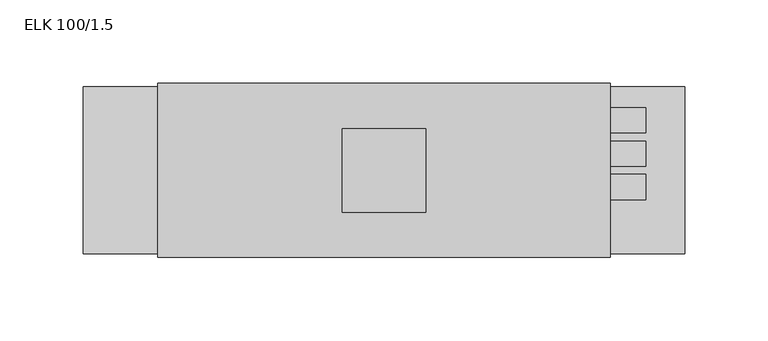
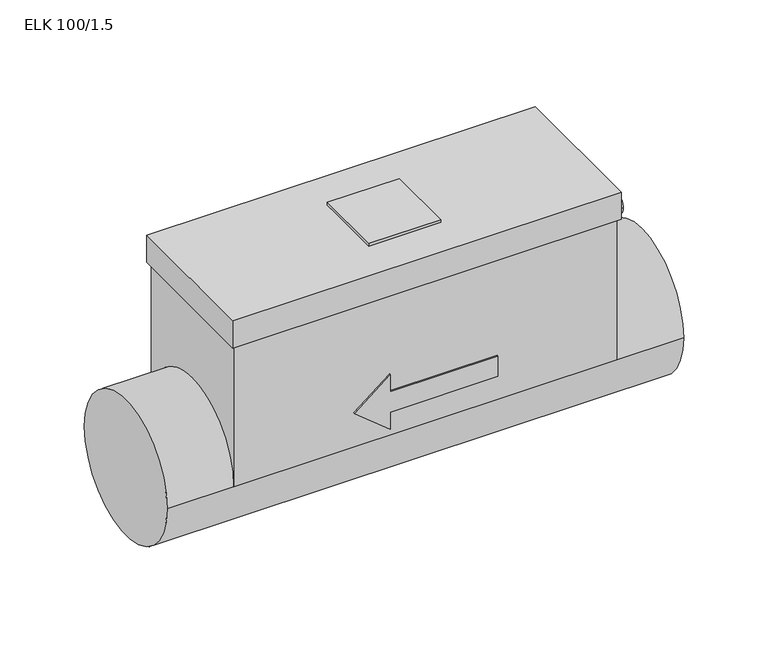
"""IFC4 building model written with IfcOpenShell, lengths in millimetres: proxy geometry, KORF_Нагреватель_Электрический_Круглый_ELK : ELK 100/1.5."""

from ifc_helpers import new_model, si_unit, point, frame, frame_2d, origin, place, context, project, spatial, polyline, circle_curve, trimmed, segment, composite_curve, outline, extrude, source, transform, mapped, element, save
from ifc_brep_helpers import plane_surface, cylinder_surface, advanced_brep


def elk_100_1_5_5251a224(model_context):
    return source(origin(), model_context, "Body", "SolidModel", [
        extrude(outline(polyline([(205.0, 25.0), (205.0, -25.0), (155.0, -25.0), (155.0, 25.0), (205.0, 25.0)])), frame((0.0, 0.0, 124.0), z_axis=(0.0, 0.0, 1.0), x_axis=(1.0, 0.0, 0.0)), (0.0, 0.0, 1.0), 2.0),
        extrude(outline(composite_curve([segment(trimmed(circle_curve(frame_2d((-10.0, 84.0)), 7.5), [point((-17.5, 84.0))], [point((-2.5, 84.0))], False, "CARTESIAN"), True, "CONTINUOUS"), segment(trimmed(circle_curve(frame_2d((-10.0, 84.0)), 7.5), [point((-2.5, 84.0))], [point((-17.5, 84.0))], False, "CARTESIAN"), True, "CONTINUOUS")], self_intersect=False)), frame((313.5, 0.0, 0.0), z_axis=(1.0, 0.0, 0.0), x_axis=(0.0, 1.0, 0.0)), (0.0, 0.0, 1.0), 23.25),
        extrude(outline(composite_curve([segment(trimmed(circle_curve(frame_2d((10.0, 84.0)), 7.5), [point((2.5, 84.0))], [point((17.5, 84.0))], False, "CARTESIAN"), True, "CONTINUOUS"), segment(trimmed(circle_curve(frame_2d((10.0, 84.0)), 7.5), [point((17.5, 84.0))], [point((2.5, 84.0))], False, "CARTESIAN"), True, "CONTINUOUS")], self_intersect=False)), frame((313.5, 0.0, 0.0), z_axis=(1.0, 0.0, 0.0), x_axis=(0.0, 1.0, 0.0)), (0.0, 0.0, 1.0), 23.25),
        extrude(outline(composite_curve([segment(trimmed(circle_curve(frame_2d((30.0, 84.0)), 7.5), [point((22.5, 84.0))], [point((37.5, 84.0))], False, "CARTESIAN"), True, "CONTINUOUS"), segment(trimmed(circle_curve(frame_2d((30.0, 84.0)), 7.5), [point((37.5, 84.0))], [point((22.5, 84.0))], False, "CARTESIAN"), True, "CONTINUOUS")], self_intersect=False)), frame((313.5, 0.0, 0.0), z_axis=(1.0, 0.0, 0.0), x_axis=(0.0, 1.0, 0.0)), (0.0, 0.0, 1.0), 23.25),
        advanced_brep(
        [(315.5, 52.0, 104.0), (315.5, -52.0, 104.0), (44.5, -52.0, 104.0), (44.5, 52.0, 104.0), (313.5, 50.0, 104.0), (46.5, 50.0, 104.0), (46.5, -50.0, 104.0), (313.5, -50.0, 104.0), (315.5, 52.0, 124.0), (44.5, 52.0, 124.0), (44.5, -52.0, 124.0), (315.5, -52.0, 124.0), (313.5, 50.0, 0.0), (46.5, 50.0, 0.0), (155.0, 50.0, 45.0), (130.0, 50.0, 25.0), (155.0, 50.0, 5.0), (155.0, 50.0, 17.5), (230.0, 50.0, 17.5), (230.0, 50.0, 32.5), (155.0, 50.0, 32.5), (46.5, -50.0, 0.0), (313.5, -50.0, 0.0), (130.0, -50.0, 25.0), (155.0, -50.0, 45.0), (155.0, -50.0, 32.5), (230.0, -50.0, 32.5), (230.0, -50.0, 17.5), (155.0, -50.0, 17.5), (155.0, -50.0, 5.0), (360.0, -50.0, 0.0), (360.0, 50.0, 0.0), (0.0, -50.0, 0.0), (0.0, 50.0, 0.0), (155.0, -51.0, 45.0), (130.0, -51.0, 25.0), (155.0, -51.0, 5.0), (155.0, -51.0, 17.5), (230.0, -51.0, 17.5), (230.0, -51.0, 32.5), (155.0, -51.0, 32.5), (155.0, 51.0, 45.0), (155.0, 51.0, 32.5), (230.0, 51.0, 32.5), (230.0, 51.0, 17.5), (155.0, 51.0, 17.5), (155.0, 51.0, 5.0), (130.0, 51.0, 25.0)],
        [
            (0, 1),
            (1, 2),
            (2, 3),
            (3, 0),
            (4, 5),
            (5, 6),
            (6, 7),
            (7, 4),
            (8, 9),
            (9, 10),
            (10, 11),
            (11, 8),
            (3, 9),
            (8, 0),
            (2, 10),
            (1, 11),
            (4, 12),
            (12, 13),
            (13, 5),
            (14, 15),
            (15, 16),
            (16, 17),
            (17, 18),
            (18, 19),
            (19, 20),
            (20, 14),
            (13, 21, circle_curve(frame((46.5, 0.0, 0.0), z_axis=(1.0, 0.0, 0.0), x_axis=(0.0, 1.0, 0.0)), 50.0)),
            (21, 6),
            (21, 22),
            (22, 7),
            (23, 24),
            (24, 25),
            (25, 26),
            (26, 27),
            (27, 28),
            (28, 29),
            (29, 23),
            (22, 12, circle_curve(frame((313.5, 0.0, 0.0), z_axis=(-1.0, 0.0, 0.0), x_axis=(0.0, 1.0, 0.0)), 50.0)),
            (30, 31, circle_curve(frame((360.0, 0.0, 0.0), z_axis=(1.0, 0.0, 0.0), x_axis=(0.0, 1.0, 0.0)), 50.0)),
            (31, 30, circle_curve(frame((360.0, 0.0, 0.0), z_axis=(1.0, 0.0, 0.0), x_axis=(0.0, 1.0, 0.0)), 50.0)),
            (32, 33, circle_curve(frame((0.0, 0.0, 0.0), z_axis=(-1.0, 0.0, 0.0), x_axis=(0.0, 1.0, 0.0)), 50.0)),
            (33, 32, circle_curve(frame((0.0, 0.0, 0.0), z_axis=(-1.0, 0.0, 0.0), x_axis=(0.0, 1.0, 0.0)), 50.0)),
            (30, 22),
            (21, 32),
            (33, 13),
            (12, 31),
            (34, 35),
            (35, 36),
            (36, 37),
            (37, 38),
            (38, 39),
            (39, 40),
            (40, 34),
            (41, 42),
            (42, 43),
            (43, 44),
            (44, 45),
            (45, 46),
            (46, 47),
            (47, 41),
            (34, 24),
            (23, 35),
            (47, 15),
            (14, 41),
            (29, 36),
            (46, 16),
            (28, 37),
            (45, 17),
            (27, 38),
            (44, 18),
            (26, 39),
            (43, 19),
            (25, 40),
            (42, 20),
        ],
        [
            plane_surface(frame((44.5, 52.0, 104.0), z_axis=(0.0, 0.0, -1.0), x_axis=(1.0, 0.0, 0.0))),
            plane_surface(frame((44.5, 52.0, 124.0), z_axis=(0.0, 0.0, 1.0), x_axis=(-1.0, 0.0, 0.0))),
            plane_surface(frame((315.5, 52.0, 124.0), z_axis=(0.0, 1.0, 0.0), x_axis=(0.0, 0.0, -1.0))),
            plane_surface(frame((44.5, 52.0, 124.0), z_axis=(-1.0, 0.0, 0.0), x_axis=(0.0, 0.0, -1.0))),
            plane_surface(frame((44.5, -52.0, 124.0), z_axis=(0.0, -1.0, 0.0), x_axis=(0.0, 0.0, -1.0))),
            plane_surface(frame((315.5, -52.0, 124.0), z_axis=(1.0, 0.0, 0.0), x_axis=(0.0, 0.0, -1.0))),
            plane_surface(frame((313.5, 50.0, 124.0), z_axis=(0.0, 1.0, 0.0), x_axis=(0.0, 0.0, -1.0))),
            plane_surface(frame((46.5, 50.0, 124.0), z_axis=(-1.0, 0.0, 0.0), x_axis=(0.0, 0.0, -1.0))),
            plane_surface(frame((46.5, -50.0, 124.0), z_axis=(0.0, -1.0, 0.0), x_axis=(0.0, 0.0, -1.0))),
            plane_surface(frame((313.5, -50.0, 124.0), z_axis=(1.0, 0.0, 0.0), x_axis=(0.0, 0.0, -1.0))),
            plane_surface(frame((360.0, 50.0, 0.0), z_axis=(1.0, 0.0, 0.0), x_axis=(0.0, 0.0, 1.0))),
            plane_surface(frame((0.0, 50.0, 0.0), z_axis=(-1.0, 0.0, 0.0), x_axis=(0.0, 0.0, -1.0))),
            cylinder_surface(frame((0.0, 0.0, 0.0), z_axis=(1.0, 0.0, 0.0), x_axis=(0.0, 1.0, 0.0)), 50.0),
            plane_surface(frame((130.0, -51.0, 25.0), z_axis=(0.0, -1.0, 0.0), x_axis=(-0.7808688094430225, 0.0, -0.6246950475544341))),
            plane_surface(frame((130.0, 51.0, 25.0), z_axis=(0.0, 1.0, 0.0), x_axis=(0.7808688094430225, 0.0, 0.6246950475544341))),
            plane_surface(frame((155.0, -51.0, 45.0), z_axis=(-0.6246950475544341, 0.0, 0.7808688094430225), x_axis=(0.0, 1.0, 0.0))),
            plane_surface(frame((130.0, -51.0, 25.0), z_axis=(-0.6246950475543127, 0.0, -0.7808688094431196), x_axis=(0.0, 1.0, 0.0))),
            plane_surface(frame((155.0, -51.0, 5.0), z_axis=(1.0, 0.0, 0.0), x_axis=(0.0, 1.0, 0.0))),
            plane_surface(frame((155.0, -51.0, 17.5), z_axis=(0.0, 0.0, -1.0), x_axis=(0.0, 1.0, 0.0))),
            plane_surface(frame((230.0, -51.0, 17.5), z_axis=(1.0, 0.0, 0.0), x_axis=(0.0, 1.0, 0.0))),
            plane_surface(frame((230.0, -51.0, 32.5), z_axis=(0.0, 0.0, 1.0), x_axis=(0.0, 1.0, 0.0))),
            plane_surface(frame((155.0, -51.0, 32.5), z_axis=(1.0, 0.0, 0.0), x_axis=(0.0, 1.0, 0.0))),
        ],
        [
            (0, [[1, 2, 3, 4], [5, 6, 7, 8]]),
            (1, [[9, 10, 11, 12]]),
            (2, [[-4, 13, -9, 14]]),
            (3, [[-3, 15, -10, -13]]),
            (4, [[-2, 16, -11, -15]]),
            (5, [[-1, -14, -12, -16]]),
            (6, [[17, 18, 19, -5], [20, 21, 22, 23, 24, 25, 26]]),
            (7, [[-19, 27, 28, -6]]),
            (8, [[-28, 29, 30, -7], [31, 32, 33, 34, 35, 36, 37]]),
            (9, [[-17, -8, -30, 38]]),
            (10, [[39, 40]]),
            (11, [[41, 42]]),
            (12, [[-39, 43, -29, 44, -42, 45, -18, 46]]),
            (12, [[-40, -46, -38, -43]]),
            (12, [[-41, -44, -27, -45]]),
            (13, [[47, 48, 49, 50, 51, 52, 53]]),
            (14, [[54, 55, 56, 57, 58, 59, 60]]),
            (15, [[-47, 61, -31, 62]]),
            (15, [[-60, 63, -20, 64]]),
            (16, [[-48, -62, -37, 65]]),
            (16, [[-59, 66, -21, -63]]),
            (17, [[-49, -65, -36, 67]]),
            (17, [[-58, 68, -22, -66]]),
            (18, [[-50, -67, -35, 69]]),
            (18, [[-57, 70, -23, -68]]),
            (19, [[-51, -69, -34, 71]]),
            (19, [[-56, 72, -24, -70]]),
            (20, [[-52, -71, -33, 73]]),
            (20, [[-55, 74, -25, -72]]),
            (21, [[-53, -73, -32, -61]]),
            (21, [[-54, -64, -26, -74]]),
        ],
    ),
    ])


if __name__ == "__main__":
    model = new_model("IFC4")
    model_context = context("Model", 3, world=origin())
    ifc_project = project(units=[si_unit("LENGTHUNIT", "METRE", prefix="MILLI")], contexts=[model_context])
    site = spatial("IfcSite", under=ifc_project)
    building = spatial("IfcBuilding", under=site)
    placement = place(None, origin())
    elk_100_1_5_shape = elk_100_1_5_5251a224(model_context)
    element("IfcBuildingElementProxy", 1, Name="KORF_Нагреватель_Электрический_Круглый_ELK : ELK 100/1.5", ObjectType="KORF_Нагреватель_Электрический_Круглый_ELK : ELK 100/1.5", at=placement, inside=building, context=model_context, shape_type="MappedRepresentation", body=[
        mapped(elk_100_1_5_shape, transform((0.0, 0.0, 0.0), x_axis=(1.0, 0.0, 0.0), y_axis=(0.0, 1.0, 0.0), z_axis=(0.0, 0.0, 1.0))),
    ])
    save(model, "model.ifc")
